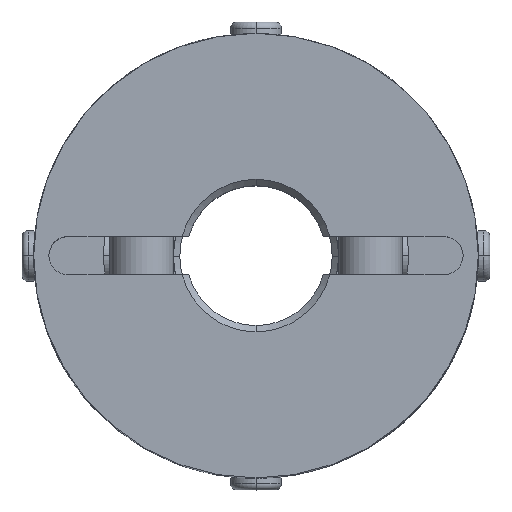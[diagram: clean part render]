
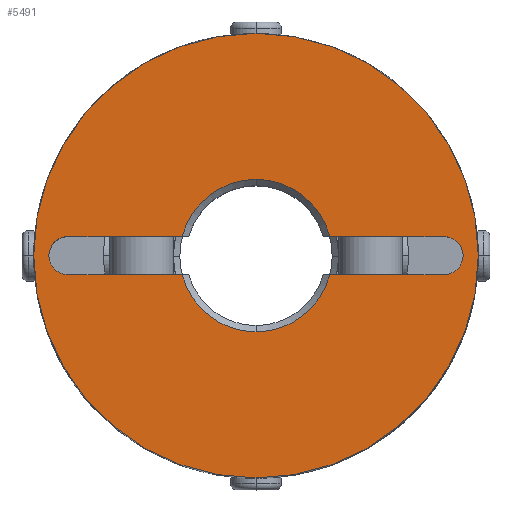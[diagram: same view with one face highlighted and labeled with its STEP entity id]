
A CAD part, top view. The second image highlights one B-rep face of the part: STEP entity #5491.
In plain terms, the highlighted planar face has unit normal (0, 0, 1).
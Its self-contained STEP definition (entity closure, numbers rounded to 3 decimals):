
#981=CARTESIAN_POINT('',(0.,17.5,17.5));
#982=VERTEX_POINT('',#981);
#989=CARTESIAN_POINT('',(0.,-17.5,17.5));
#990=VERTEX_POINT('',#989);
#991=CARTESIAN_POINT('',(0.0,0.0,17.5));
#992=DIRECTION('',(0.0,0.0,-1.0));
#993=DIRECTION('',(0.0,-1.0,0.0));
#994=AXIS2_PLACEMENT_3D('',#991,#992,#993);
#995=CIRCLE('',#994,17.5);
#996=EDGE_CURVE('',#982,#990,#995,.T.);
#1311=CARTESIAN_POINT('',(15.861,1.061,17.5));
#1312=VERTEX_POINT('',#1311);
#1328=CARTESIAN_POINT('',(14.8,-1.5,17.5));
#1329=VERTEX_POINT('',#1328);
#1336=CARTESIAN_POINT('',(14.8,0.,17.5));
#1337=DIRECTION('',(0.0,0.0,1.0));
#1338=DIRECTION('',(0.707,-0.707,0.0));
#1339=AXIS2_PLACEMENT_3D('',#1336,#1337,#1338);
#1340=CIRCLE('',#1339,1.5);
#1341=EDGE_CURVE('',#1329,#1312,#1340,.T.);
#1353=CARTESIAN_POINT('',(-15.861,-1.061,17.5));
#1354=VERTEX_POINT('',#1353);
#1370=CARTESIAN_POINT('',(-14.8,1.5,17.5));
#1371=VERTEX_POINT('',#1370);
#1378=CARTESIAN_POINT('',(-14.8,0.,17.5));
#1379=DIRECTION('',(0.0,0.0,1.0));
#1380=DIRECTION('',(-0.707,0.707,0.0));
#1381=AXIS2_PLACEMENT_3D('',#1378,#1379,#1380);
#1382=CIRCLE('',#1381,1.5);
#1383=EDGE_CURVE('',#1371,#1354,#1382,.T.);
#4396=CARTESIAN_POINT('',(0.,6.,17.5));
#4397=VERTEX_POINT('',#4396);
#4405=CARTESIAN_POINT('',(5.809,1.5,17.5));
#4406=VERTEX_POINT('',#4405);
#4420=CARTESIAN_POINT('',(0.,0.,17.5));
#4421=DIRECTION('',(0.0,0.0,1.0));
#4422=DIRECTION('',(0.0,1.0,0.0));
#4423=AXIS2_PLACEMENT_3D('',#4420,#4421,#4422);
#4424=CIRCLE('',#4423,6.0);
#4425=EDGE_CURVE('',#4406,#4397,#4424,.T.);
#4435=CARTESIAN_POINT('',(0.,-6.,17.5));
#4436=VERTEX_POINT('',#4435);
#4452=CARTESIAN_POINT('',(-5.809,-1.5,17.5));
#4453=VERTEX_POINT('',#4452);
#4467=CARTESIAN_POINT('',(0.,0.,17.5));
#4468=DIRECTION('',(0.0,0.0,1.0));
#4469=DIRECTION('',(0.0,-1.0,0.0));
#4470=AXIS2_PLACEMENT_3D('',#4467,#4468,#4469);
#4471=CIRCLE('',#4470,6.0);
#4472=EDGE_CURVE('',#4453,#4436,#4471,.T.);
#5207=CARTESIAN_POINT('',(14.8,1.5,17.5));
#5208=VERTEX_POINT('',#5207);
#5215=CARTESIAN_POINT('',(5.809,1.5,17.5));
#5216=DIRECTION('',(1.0,0.0,0.0));
#5217=VECTOR('',#5216,8.991);
#5218=LINE('',#5215,#5217);
#5219=EDGE_CURVE('',#4406,#5208,#5218,.T.);
#5376=CARTESIAN_POINT('',(5.809,-1.5,17.5));
#5377=VERTEX_POINT('',#5376);
#5391=CARTESIAN_POINT('',(14.8,-1.5,17.5));
#5392=DIRECTION('',(-1.0,0.0,0.0));
#5393=VECTOR('',#5392,8.991);
#5394=LINE('',#5391,#5393);
#5395=EDGE_CURVE('',#1329,#5377,#5394,.T.);
#5418=CARTESIAN_POINT('',(0.,0.,17.5));
#5419=DIRECTION('',(0.0,0.0,1.0));
#5420=DIRECTION('',(0.0,-1.0,0.0));
#5421=AXIS2_PLACEMENT_3D('',#5418,#5419,#5420);
#5422=CIRCLE('',#5421,6.0);
#5423=EDGE_CURVE('',#4436,#5377,#5422,.T.);
#5430=CARTESIAN_POINT('',(0.,-1.591,17.5));
#5431=DIRECTION('',(0.0,0.0,1.0));
#5432=DIRECTION('',(0.0,-1.0,0.0));
#5433=AXIS2_PLACEMENT_3D('',#5430,#5431,#5432);
#5434=PLANE('',#5433);
#5435=CARTESIAN_POINT('',(0.0,0.0,17.5));
#5436=DIRECTION('',(0.0,0.0,-1.0));
#5437=DIRECTION('',(0.0,-1.0,0.0));
#5438=AXIS2_PLACEMENT_3D('',#5435,#5436,#5437);
#5439=CIRCLE('',#5438,17.5);
#5440=EDGE_CURVE('',#990,#982,#5439,.T.);
#5441=ORIENTED_EDGE('',*,*,#5440,.F.);
#5442=ORIENTED_EDGE('',*,*,#996,.F.);
#5443=EDGE_LOOP('',(#5441,#5442));
#5444=FACE_OUTER_BOUND('',#5443,.T.);
#5445=ORIENTED_EDGE('',*,*,#4472,.F.);
#5446=CARTESIAN_POINT('',(-14.8,-1.5,17.5));
#5447=VERTEX_POINT('',#5446);
#5448=CARTESIAN_POINT('',(-5.809,-1.5,17.5));
#5449=DIRECTION('',(-1.0,0.0,0.0));
#5450=VECTOR('',#5449,8.991);
#5451=LINE('',#5448,#5450);
#5452=EDGE_CURVE('',#4453,#5447,#5451,.T.);
#5453=ORIENTED_EDGE('',*,*,#5452,.T.);
#5454=CARTESIAN_POINT('',(-14.8,0.,17.5));
#5455=DIRECTION('',(0.0,0.0,1.0));
#5456=DIRECTION('',(-0.707,0.707,0.0));
#5457=AXIS2_PLACEMENT_3D('',#5454,#5455,#5456);
#5458=CIRCLE('',#5457,1.5);
#5459=EDGE_CURVE('',#1354,#5447,#5458,.T.);
#5460=ORIENTED_EDGE('',*,*,#5459,.F.);
#5461=ORIENTED_EDGE('',*,*,#1383,.F.);
#5462=CARTESIAN_POINT('',(-5.809,1.5,17.5));
#5463=VERTEX_POINT('',#5462);
#5464=CARTESIAN_POINT('',(-14.8,1.5,17.5));
#5465=DIRECTION('',(1.0,0.0,0.0));
#5466=VECTOR('',#5465,8.991);
#5467=LINE('',#5464,#5466);
#5468=EDGE_CURVE('',#1371,#5463,#5467,.T.);
#5469=ORIENTED_EDGE('',*,*,#5468,.T.);
#5470=CARTESIAN_POINT('',(0.,0.,17.5));
#5471=DIRECTION('',(0.0,0.0,1.0));
#5472=DIRECTION('',(0.0,1.0,0.0));
#5473=AXIS2_PLACEMENT_3D('',#5470,#5471,#5472);
#5474=CIRCLE('',#5473,6.0);
#5475=EDGE_CURVE('',#4397,#5463,#5474,.T.);
#5476=ORIENTED_EDGE('',*,*,#5475,.F.);
#5477=ORIENTED_EDGE('',*,*,#4425,.F.);
#5478=ORIENTED_EDGE('',*,*,#5219,.T.);
#5479=CARTESIAN_POINT('',(14.8,0.,17.5));
#5480=DIRECTION('',(0.0,0.0,1.0));
#5481=DIRECTION('',(0.707,-0.707,0.0));
#5482=AXIS2_PLACEMENT_3D('',#5479,#5480,#5481);
#5483=CIRCLE('',#5482,1.5);
#5484=EDGE_CURVE('',#1312,#5208,#5483,.T.);
#5485=ORIENTED_EDGE('',*,*,#5484,.F.);
#5486=ORIENTED_EDGE('',*,*,#1341,.F.);
#5487=ORIENTED_EDGE('',*,*,#5395,.T.);
#5488=ORIENTED_EDGE('',*,*,#5423,.F.);
#5489=EDGE_LOOP('',(#5445,#5453,#5460,#5461,#5469,#5476,#5477,#5478,#5485,#5486,#5487,#5488));
#5490=FACE_BOUND('',#5489,.T.);
#5491=ADVANCED_FACE('',(#5444,#5490),#5434,.T.);
